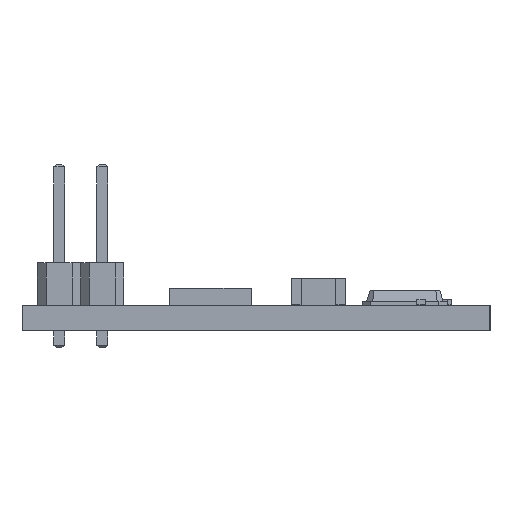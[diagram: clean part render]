
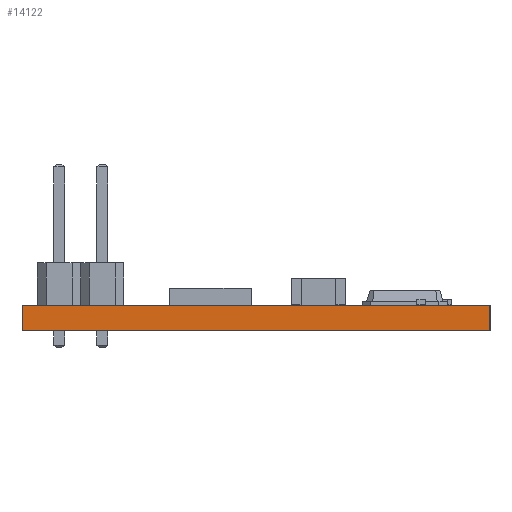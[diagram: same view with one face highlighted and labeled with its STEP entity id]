
A CAD part, left-side view. The second image highlights one B-rep face of the part: STEP entity #14122.
In plain terms, the highlighted planar face has unit normal (-1, 0, 0).
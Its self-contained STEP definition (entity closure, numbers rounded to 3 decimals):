
#1056=PLANE('',#15254);
#1780=FACE_OUTER_BOUND('',#2629,.T.);
#2629=EDGE_LOOP('',(#10202,#10203,#10204,#10205));
#3588=LINE('',#20573,#5153);
#3589=LINE('',#20576,#5154);
#3590=LINE('',#20578,#5155);
#3591=LINE('',#20579,#5156);
#5153=VECTOR('',#16581,10.);
#5154=VECTOR('',#16584,10.);
#5155=VECTOR('',#16585,10.);
#5156=VECTOR('',#16586,10.);
#7074=VERTEX_POINT('',#20567);
#7076=VERTEX_POINT('',#20571);
#7077=VERTEX_POINT('',#20575);
#7078=VERTEX_POINT('',#20577);
#8242=EDGE_CURVE('',#7074,#7076,#3588,.T.);
#8243=EDGE_CURVE('',#7074,#7077,#3589,.T.);
#8244=EDGE_CURVE('',#7078,#7076,#3590,.T.);
#8245=EDGE_CURVE('',#7077,#7078,#3591,.T.);
#10202=ORIENTED_EDGE('',*,*,#8243,.F.);
#10203=ORIENTED_EDGE('',*,*,#8242,.T.);
#10204=ORIENTED_EDGE('',*,*,#8244,.F.);
#10205=ORIENTED_EDGE('',*,*,#8245,.F.);
#14122=ADVANCED_FACE('',(#1780),#1056,.T.);
#15254=AXIS2_PLACEMENT_3D('',#20574,#16582,#16583);
#16581=DIRECTION('',(0.,0.,1.));
#16582=DIRECTION('center_axis',(-1.,0.,0.));
#16583=DIRECTION('ref_axis',(0.,-1.,0.));
#16584=DIRECTION('',(0.,1.,0.));
#16585=DIRECTION('',(0.,-1.,0.));
#16586=DIRECTION('',(0.,0.,1.));
#20567=CARTESIAN_POINT('',(-16.25,-5.,0.));
#20571=CARTESIAN_POINT('',(-16.25,-5.,1.5));
#20573=CARTESIAN_POINT('',(-16.25,-5.,0.));
#20574=CARTESIAN_POINT('Origin',(-16.25,22.5,0.));
#20575=CARTESIAN_POINT('',(-16.25,22.5,0.));
#20576=CARTESIAN_POINT('',(-16.25,-5.,0.));
#20577=CARTESIAN_POINT('',(-16.25,22.5,1.5));
#20578=CARTESIAN_POINT('',(-16.25,-5.,1.5));
#20579=CARTESIAN_POINT('',(-16.25,22.5,0.));
